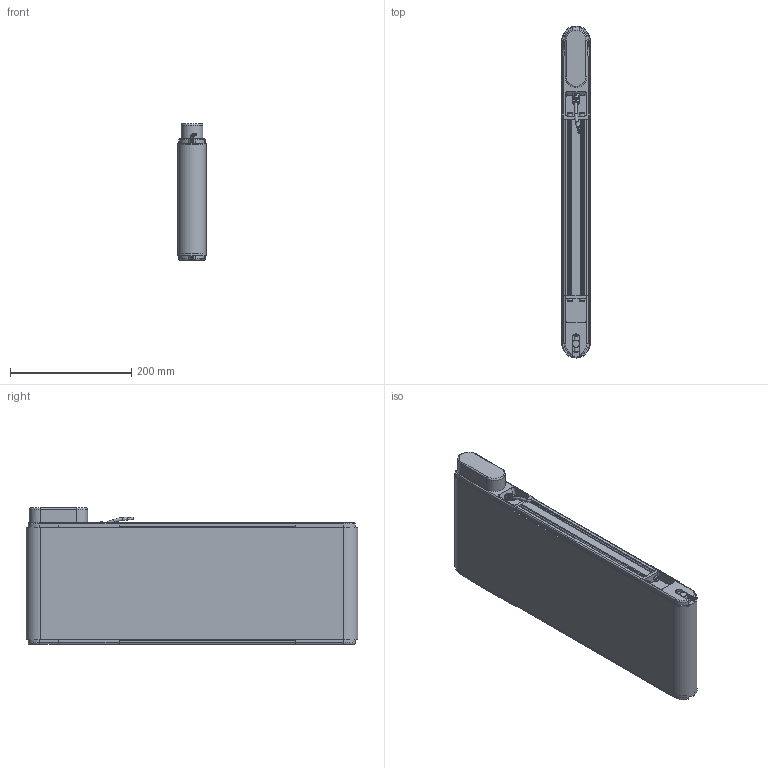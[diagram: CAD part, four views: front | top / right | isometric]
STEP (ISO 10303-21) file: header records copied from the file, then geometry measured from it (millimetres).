
FILE_DESCRIPTION(/* description */ (''),/* implementation_level */ '2;1');
FILE_NAME(/* name */ 'G:\DATEN\CAD\Förderband\Marketing\3D-Modelle (Standard)\FR-40-200-Q\FR-40-200-Q-500-K.stp',/* time_stamp */ '2019-05-09T09:48:10+02:00',/* author */ ('melanie.ochs'),/* organization */ (''),/* preprocessor_version */ 'ST-DEVELOPER v17',/* originating_system */ 'Autodesk Inventor 2019',/* authorisation */ '');
FILE_SCHEMA (('CONFIG_CONTROL_DESIGN'));
Length unit declared in the file: centimetre
Products named in the file (1): FR-40-200-Q-500-K
Bounding box: 46.6 x 546.6 x 224.5 mm (x, y, z)
Volume: 2484291.2 mm3; surface area: 666421.3 mm2
Topology: 6 solids, 25 shells, 924 faces, 2504 edges, 1671 vertices
Faces by surface type: plane 473, cylinder 291, cone 70, bspline 61, torus 29
Full cylindrical faces by diameter (mm): 1 x6, 3 x1, 4 x12, 4.3 x4, 4.917 x3, 5 x11, 5.5 x8, 6 x4, 6.5 x1, 6.773 x1, 6.917 x3, 8 x4, 8.3 x4, 8.5 x8, 8.773 x1, 10 x2, 11 x1, 12 x6, 25 x2, 28 x2, 28.01 x2, 30 x1
Entity records: 31084 total; most frequent: CARTESIAN_POINT 6835, ORIENTED_EDGE 4964, DIRECTION 4769, EDGE_CURVE 2482, AXIS2_PLACEMENT_3D 1714, VERTEX_POINT 1670, LINE 1341, VECTOR 1341
